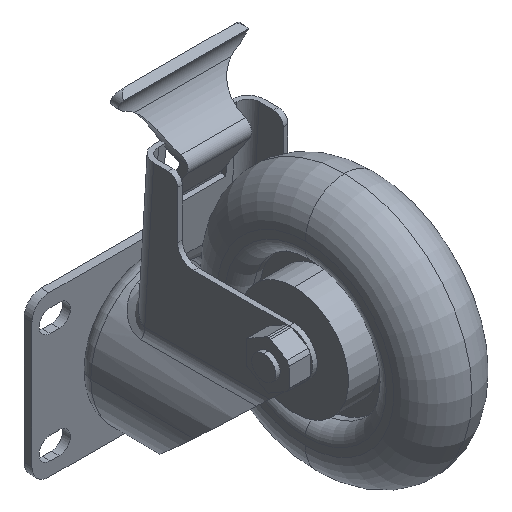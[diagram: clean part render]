
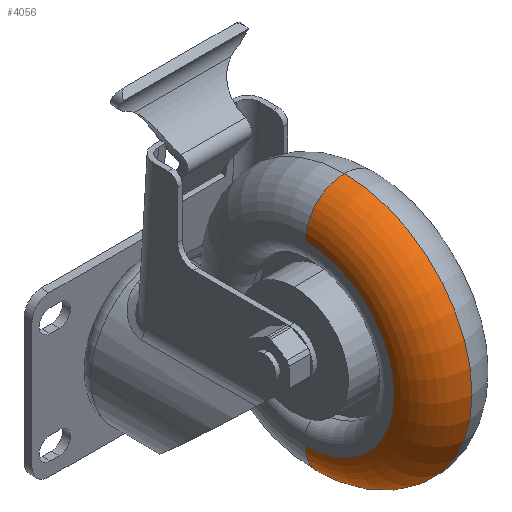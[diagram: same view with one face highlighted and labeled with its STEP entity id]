
A CAD part, isometric view. The second image highlights one B-rep face of the part: STEP entity #4056.
In plain terms, the highlighted toroidal (fillet/blend) face has major radius 35.242 mm and minor radius 15.557 mm.
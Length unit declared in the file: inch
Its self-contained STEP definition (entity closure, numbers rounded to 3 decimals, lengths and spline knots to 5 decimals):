
#16 = DIRECTION ( 'NONE',  ( 0., -1., 0. ) ) ;
#68 = VERTEX_POINT ( 'NONE', #4609 ) ;
#124 = AXIS2_PLACEMENT_3D ( 'NONE', #248, #1093, #1904 ) ;
#248 = CARTESIAN_POINT ( 'NONE',  ( 0., -3.2, 1.63 ) ) ;
#289 = AXIS2_PLACEMENT_3D ( 'NONE', #4554, #809, #2463 ) ;
#383 = EDGE_CURVE ( 'NONE', #1095, #68, #2882, .T. ) ;
#443 = CARTESIAN_POINT ( 'NONE',  ( 0., -3.2, 3.0175 ) ) ;
#592 = ORIENTED_EDGE ( 'NONE', *, *, #1319, .F. ) ;
#716 = DIRECTION ( 'NONE',  ( 0., 0., 1. ) ) ;
#742 = ORIENTED_EDGE ( 'NONE', *, *, #1546, .F. ) ;
#809 = DIRECTION ( 'NONE',  ( -1., 0., 0. ) ) ;
#868 = VERTEX_POINT ( 'NONE', #4004 ) ;
#1093 = DIRECTION ( 'NONE',  ( 1., 0., 0. ) ) ;
#1095 = VERTEX_POINT ( 'NONE', #4066 ) ;
#1146 = CARTESIAN_POINT ( 'NONE',  ( -0.6125, -3.2, 1.63 ) ) ;
#1203 = EDGE_LOOP ( 'NONE', ( #3736, #742, #2467, #592 ) ) ;
#1316 = DIRECTION ( 'NONE',  ( 0., 0., -1. ) ) ;
#1319 = EDGE_CURVE ( 'NONE', #68, #868, #2454, .T. ) ;
#1435 = CIRCLE ( 'NONE', #2824, 0.6125 ) ;
#1468 = VERTEX_POINT ( 'NONE', #3040 ) ;
#1546 = EDGE_CURVE ( 'NONE', #1468, #1095, #5091, .T. ) ;
#1904 = DIRECTION ( 'NONE',  ( 0., 0., 1. ) ) ;
#2053 = DIRECTION ( 'NONE',  ( 0., 0., 1. ) ) ;
#2127 = TOROIDAL_SURFACE ( 'NONE', #289, 1.3875, 0.6125 ) ;
#2454 = CIRCLE ( 'NONE', #3946, 1.3875 ) ;
#2463 = DIRECTION ( 'NONE',  ( 0., 0., 1. ) ) ;
#2467 = ORIENTED_EDGE ( 'NONE', *, *, #5163, .T. ) ;
#2810 = DIRECTION ( 'NONE',  ( -1., 0., 0. ) ) ;
#2824 = AXIS2_PLACEMENT_3D ( 'NONE', #443, #16, #1316 ) ;
#2882 = CIRCLE ( 'NONE', #3669, 0.6125 ) ;
#3040 = CARTESIAN_POINT ( 'NONE',  ( 0., -3.2, 3.63 ) ) ;
#3295 = FACE_OUTER_BOUND ( 'NONE', #1203, .T. ) ;
#3669 = AXIS2_PLACEMENT_3D ( 'NONE', #5362, #4518, #2053 ) ;
#3736 = ORIENTED_EDGE ( 'NONE', *, *, #383, .F. ) ;
#3946 = AXIS2_PLACEMENT_3D ( 'NONE', #1146, #2810, #716 ) ;
#4004 = CARTESIAN_POINT ( 'NONE',  ( -0.6125, -3.2, 3.0175 ) ) ;
#4056 = ADVANCED_FACE ( 'NONE', ( #3295 ), #2127, .T. ) ;
#4066 = CARTESIAN_POINT ( 'NONE',  ( 0., -3.2, -0.37 ) ) ;
#4518 = DIRECTION ( 'NONE',  ( 0., 1., 0. ) ) ;
#4554 = CARTESIAN_POINT ( 'NONE',  ( 0., -3.2, 1.63 ) ) ;
#4609 = CARTESIAN_POINT ( 'NONE',  ( -0.6125, -3.2, 0.2425 ) ) ;
#5091 = CIRCLE ( 'NONE', #124, 2. ) ;
#5163 = EDGE_CURVE ( 'NONE', #1468, #868, #1435, .T. ) ;
#5362 = CARTESIAN_POINT ( 'NONE',  ( 0., -3.2, 0.2425 ) ) ;
